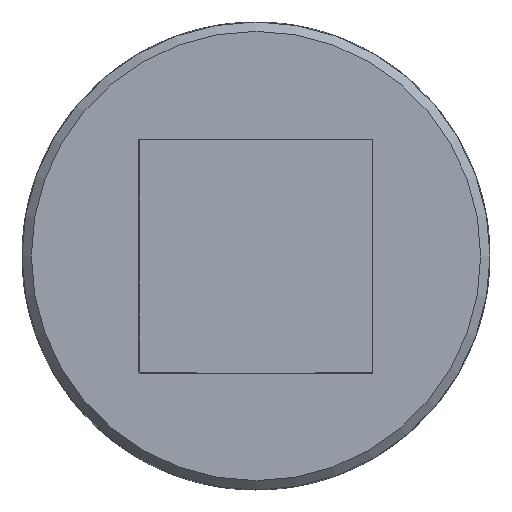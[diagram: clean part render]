
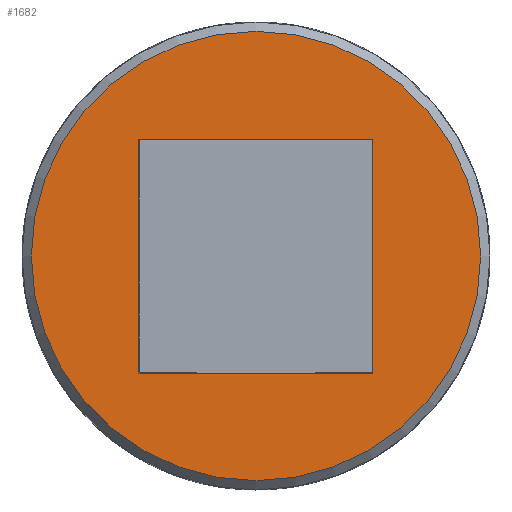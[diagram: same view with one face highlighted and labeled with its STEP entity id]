
A CAD part, front view. The second image highlights one B-rep face of the part: STEP entity #1682.
In plain terms, the highlighted planar face has unit normal (0, -1, 0).
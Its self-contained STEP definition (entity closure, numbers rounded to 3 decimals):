
#112=LINE('',#3176,#176);
#116=LINE('',#3199,#180);
#122=LINE('',#3237,#186);
#125=LINE('',#3257,#189);
#176=VECTOR('',#2169,25.);
#180=VECTOR('',#2177,25.);
#186=VECTOR('',#2185,25.);
#189=VECTOR('',#2192,25.);
#240=PLANE('',#1848);
#383=FACE_BOUND('',#608,.T.);
#469=FACE_OUTER_BOUND('',#607,.T.);
#607=EDGE_LOOP('',(#1467));
#608=EDGE_LOOP('',(#1468,#1469,#1470,#1471));
#696=CIRCLE('',#1846,24.);
#823=VERTEX_POINT('',#3173);
#824=VERTEX_POINT('',#3175);
#830=VERTEX_POINT('',#3198);
#839=VERTEX_POINT('',#3235);
#846=VERTEX_POINT('',#3304);
#1029=EDGE_CURVE('',#824,#823,#112,.T.);
#1036=EDGE_CURVE('',#830,#824,#116,.T.);
#1046=EDGE_CURVE('',#823,#839,#122,.T.);
#1052=EDGE_CURVE('',#839,#830,#125,.T.);
#1063=EDGE_CURVE('',#846,#846,#696,.T.);
#1467=ORIENTED_EDGE('',*,*,#1063,.F.);
#1468=ORIENTED_EDGE('',*,*,#1029,.T.);
#1469=ORIENTED_EDGE('',*,*,#1046,.T.);
#1470=ORIENTED_EDGE('',*,*,#1052,.T.);
#1471=ORIENTED_EDGE('',*,*,#1036,.T.);
#1682=ADVANCED_FACE('',(#469,#383),#240,.F.);
#1846=AXIS2_PLACEMENT_3D('',#3305,#2221,#2222);
#1848=AXIS2_PLACEMENT_3D('',#3513,#2229,#2230);
#2169=DIRECTION('',(0.,0.,-1.));
#2177=DIRECTION('',(1.,0.,0.));
#2185=DIRECTION('',(-1.,0.,0.));
#2192=DIRECTION('',(0.,0.,1.));
#2221=DIRECTION('center_axis',(0.,1.,0.));
#2222=DIRECTION('ref_axis',(1.,0.,0.));
#2229=DIRECTION('center_axis',(0.,1.,0.));
#2230=DIRECTION('ref_axis',(0.,0.,1.));
#3173=CARTESIAN_POINT('',(12.5,-78.5,-12.5));
#3175=CARTESIAN_POINT('',(12.5,-78.5,12.5));
#3176=CARTESIAN_POINT('',(12.5,-78.5,6.25));
#3198=CARTESIAN_POINT('',(-12.5,-78.5,12.5));
#3199=CARTESIAN_POINT('',(-6.25,-78.5,12.5));
#3235=CARTESIAN_POINT('',(-12.5,-78.5,-12.5));
#3237=CARTESIAN_POINT('',(6.25,-78.5,-12.5));
#3257=CARTESIAN_POINT('',(-12.5,-78.5,-6.25));
#3304=CARTESIAN_POINT('',(-24.,-78.5,0.));
#3305=CARTESIAN_POINT('Origin',(0.,-78.5,0.));
#3513=CARTESIAN_POINT('Origin',(0.,-78.5,0.));
